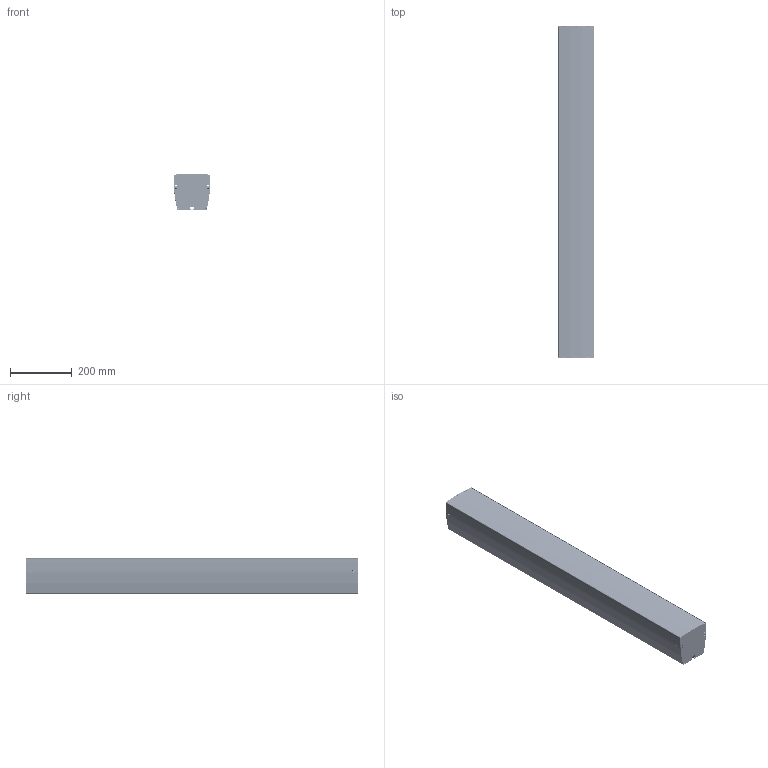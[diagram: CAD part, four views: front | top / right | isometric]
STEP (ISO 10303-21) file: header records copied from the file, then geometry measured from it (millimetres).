
FILE_DESCRIPTION (( 'STEP AP203' ), '1' );
FILE_NAME ('iBeam_Master.STEP', '2022-03-07T07:58:15', ( '' ), ( '' ), 'SwSTEP 2.0', 'SolidWorks 2009', '' );
FILE_SCHEMA (( 'CONFIG_CONTROL_DESIGN' ));
Length unit declared in the file: millimetre
Products named in the file (23): iBeam_Master; LBS V4 Boden Master; LBS V4 Deckel; LBS V4 Gitter Master; LBS V4 Schottwand V3; LBS V4 Deckel-Spacer; LBS V4 Verbinder; LBS V4 Strangprofil Master; LBS V4 Klemmstein Gegenplatte; LBS V4 Verbinder Klemmstein; Socket Head Cap Screw_DIN_DIN 912 M5 x 12 --- 12N; Torque nut 01_ISO_ISO 7040-M3-N; Abstandsbolzen M3x10; Socket Countersunk Head Screw_DIN_DIN 7991 - M3 x 8 --- 4.8N; Pan Head Cross Recess Screw_ISO_ISO 7045 - M3 x 4 - Z --- 4C; XLR NC3FBV1; MSC_B05; Hex Socket Head Screws_ISO_ISO 14586 - ST3.5 x 9.5-F-N; Amphenol RJHS5384; PowerCon20 In NAC3MPA-1; Multicomp CR-R4-7 Knopf; DSP-PS dummy; iBeam Master ASF Sticker
Assembly tree (51 placements, depth 2):
  iBeam_Master
    Multicomp CR-R4-7 Knopf  x2
    Hex Socket Head Screws_ISO_ISO 14586 - ST3.5 x 9.5-F-N  x8
    Socket Head Cap Screw_DIN_DIN 912 M5 x 12 --- 12N  x4
    LBS V4 Schottwand V3
    LBS V4 Deckel-Spacer
    Socket Countersunk Head Screw_DIN_DIN 7991 - M3 x 8 --- 4.8N  x6
    XLR NC3FBV1
    LBS V4 Verbinder Klemmstein  x4
    Amphenol RJHS5384  x3
    LBS V4 Verbinder  x2
    LBS V4 Gitter Master
    LBS V4 Strangprofil Master
    MSC_B05
    Abstandsbolzen M3x10  x4
    Torque nut 01_ISO_ISO 7040-M3-N  x4
    DSP-PS dummy
    LBS V4 Klemmstein Gegenplatte
    LBS V4 Boden Master
    Pan Head Cross Recess Screw_ISO_ISO 7045 - M3 x 4 - Z --- 4C  x2
    iBeam Master ASF Sticker
    PowerCon20 In NAC3MPA-1
    LBS V4 Deckel
Bounding box: 120 x 1079 x 120 mm (x, y, z)
Volume: 2321000.9 mm3; surface area: 1905019.5 mm2
Topology: 59 solids, 60 shells, 8141 faces, 21608 edges, 13769 vertices
Faces by surface type: plane 4159, cylinder 2245, bspline 918, torus 391, cone 280, sphere 148
Entity records: 217470 total; most frequent: CARTESIAN_POINT 48981, ORIENTED_EDGE 35416, DIRECTION 32813, EDGE_CURVE 17708, LINE 11639, VECTOR 11639, VERTEX_POINT 11467, AXIS2_PLACEMENT_3D 10587
